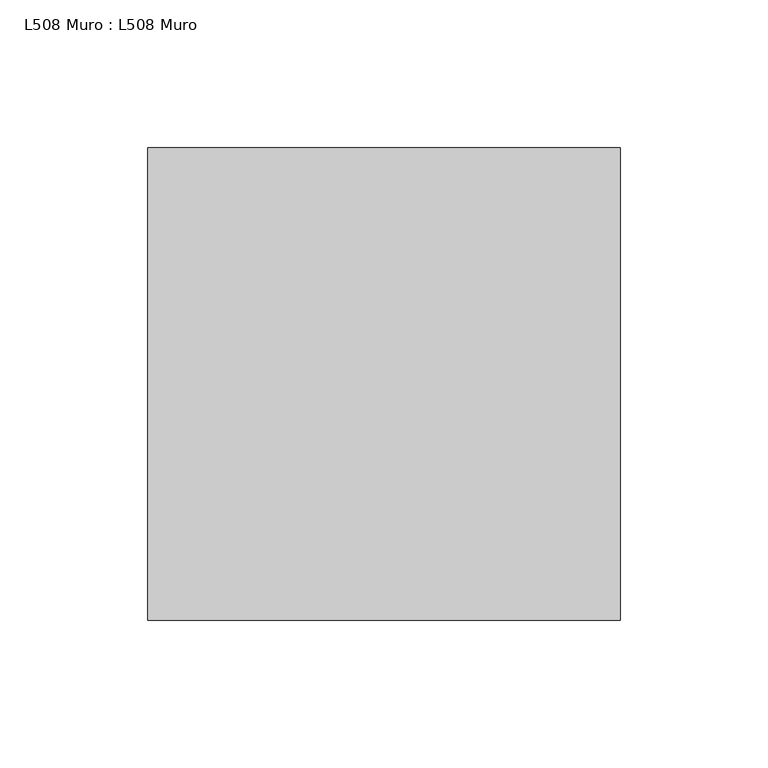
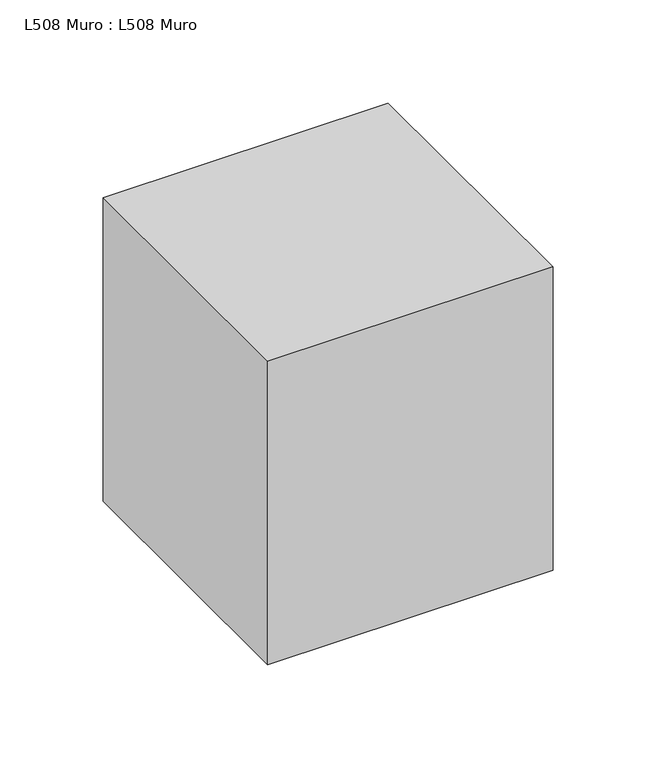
"""IFC4 building model written with IfcOpenShell, lengths in millimetres: light fixture geometry, L508 Muro : L508 Muro."""

from ifc_helpers import new_model, si_unit, frame, origin, place, context, project, spatial, polyline, outline, extrude, source, transform, mapped, element, save


def l508_muro_l508_muro_c32f3ad5(model_context):
    return source(origin(), model_context, "Body", "SweptSolid", [
        extrude(outline(polyline([(45.0, 322.5), (205.0, 322.5), (205.0, 162.5), (45.0, 162.5), (45.0, 322.5)])), frame((0.0, 0.0, 1920.0), z_axis=(0.0, 0.0, 1.0), x_axis=(1.0, 0.0, 0.0)), (0.0, 0.0, 1.0), 180.0),
    ])


if __name__ == "__main__":
    model = new_model("IFC4")
    model_context = context("Model", 3, world=origin())
    ifc_project = project(units=[si_unit("LENGTHUNIT", "METRE", prefix="MILLI")], contexts=[model_context])
    site = spatial("IfcSite", under=ifc_project)
    building = spatial("IfcBuilding", under=site)
    placement = place(None, origin())
    l508_muro_l508_muro_shape = l508_muro_l508_muro_c32f3ad5(model_context)
    element("IfcLightFixture", 1, ObjectType="L508 Muro : L508 Muro", at=placement, inside=building, context=model_context, shape_type="MappedRepresentation", body=[
        mapped(l508_muro_l508_muro_shape, transform((0.0, 0.0, 0.0), x_axis=(1.0, 0.0, 0.0), y_axis=(0.0, 1.0, 0.0), z_axis=(0.0, 0.0, 1.0))),
    ])
    save(model, "model.ifc")
